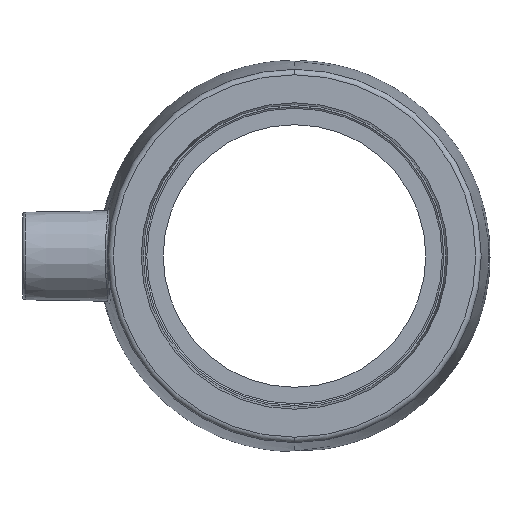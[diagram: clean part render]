
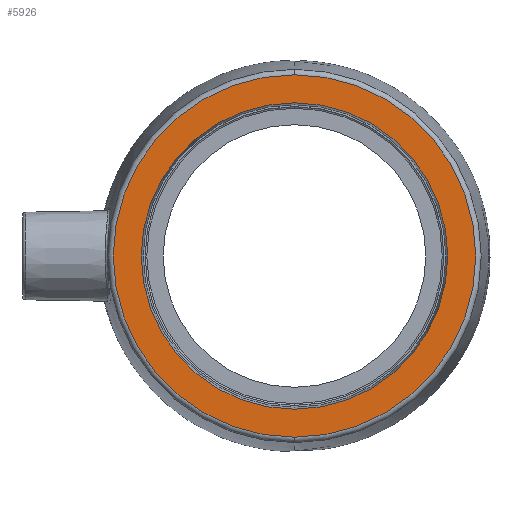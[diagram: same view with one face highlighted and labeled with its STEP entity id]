
A CAD part, left-side view. The second image highlights one B-rep face of the part: STEP entity #5926.
In plain terms, the highlighted planar face has unit normal (-1, 0, 0).
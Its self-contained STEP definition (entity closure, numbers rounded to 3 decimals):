
#1281 = EDGE_CURVE ( 'NONE', #10110, #10109, #2811, .T. ) ;
#1283 = EDGE_CURVE ( 'NONE', #10107, #10106, #2806, .T. ) ;
#2806 = CIRCLE ( 'NONE', #2818, 33.119 ) ;
#2811 = CIRCLE ( 'NONE', #2821, 28.003 ) ;
#2818 = AXIS2_PLACEMENT_3D ( 'NONE', #4012, #4013, #4014 ) ;
#2821 = AXIS2_PLACEMENT_3D ( 'NONE', #4006, #4007, #4008 ) ;
#2983 = CARTESIAN_POINT ( 'NONE',  ( -34.7, 0., 0. ) ) ;
#2984 = DIRECTION ( 'NONE',  ( -1., 0., 0. ) ) ;
#2985 = DIRECTION ( 'NONE',  ( 0., 0., 1. ) ) ;
#2986 = CARTESIAN_POINT ( 'NONE',  ( -34.7, 0., 0. ) ) ;
#2987 = DIRECTION ( 'NONE',  ( -1., 0., 0. ) ) ;
#2988 = DIRECTION ( 'NONE',  ( 0., 0., 1. ) ) ;
#4006 = CARTESIAN_POINT ( 'NONE',  ( -34.7, 0., 0. ) ) ;
#4007 = DIRECTION ( 'NONE',  ( -1., 0., 0. ) ) ;
#4008 = DIRECTION ( 'NONE',  ( 0., 0., 1. ) ) ;
#4012 = CARTESIAN_POINT ( 'NONE',  ( -34.7, 0., 0. ) ) ;
#4013 = DIRECTION ( 'NONE',  ( -1., 0., 0. ) ) ;
#4014 = DIRECTION ( 'NONE',  ( 0., 0., 1. ) ) ;
#5926 = ADVANCED_FACE ( 'NONE', ( #24601, #24602 ), #24603, .F. ) ;
#10106 = VERTEX_POINT ( 'NONE', #20091 ) ;
#10107 = VERTEX_POINT ( 'NONE', #20084 ) ;
#10109 = VERTEX_POINT ( 'NONE', #20093 ) ;
#10110 = VERTEX_POINT ( 'NONE', #20094 ) ;
#10721 = AXIS2_PLACEMENT_3D ( 'NONE', #24598, #24605, #24606 ) ;
#14824 = CIRCLE ( 'NONE', #14827, 33.119 ) ;
#14826 = CIRCLE ( 'NONE', #14829, 28.003 ) ;
#14827 = AXIS2_PLACEMENT_3D ( 'NONE', #2983, #2984, #2985 ) ;
#14829 = AXIS2_PLACEMENT_3D ( 'NONE', #2986, #2987, #2988 ) ;
#20084 = CARTESIAN_POINT ( 'NONE',  ( -34.7, 0., 33.119 ) ) ;
#20091 = CARTESIAN_POINT ( 'NONE',  ( -34.7, 0., -33.119 ) ) ;
#20093 = CARTESIAN_POINT ( 'NONE',  ( -34.7, 0., 28.003 ) ) ;
#20094 = CARTESIAN_POINT ( 'NONE',  ( -34.7, 0., -28.003 ) ) ;
#21360 = EDGE_CURVE ( 'NONE', #10106, #10107, #14824, .T. ) ;
#21361 = EDGE_CURVE ( 'NONE', #10109, #10110, #14826, .T. ) ;
#22794 = ORIENTED_EDGE ( 'NONE', *, *, #21361, .F. ) ;
#22795 = ORIENTED_EDGE ( 'NONE', *, *, #1281, .F. ) ;
#22796 = ORIENTED_EDGE ( 'NONE', *, *, #1283, .T. ) ;
#22797 = ORIENTED_EDGE ( 'NONE', *, *, #21360, .T. ) ;
#22813 = EDGE_LOOP ( 'NONE', ( #22796, #22797 ) ) ;
#22814 = EDGE_LOOP ( 'NONE', ( #22794, #22795 ) ) ;
#24598 = CARTESIAN_POINT ( 'NONE',  ( -34.7, 28.003, 0. ) ) ;
#24601 = FACE_BOUND ( 'NONE', #22814, .T. ) ;
#24602 = FACE_OUTER_BOUND ( 'NONE', #22813, .T. ) ;
#24603 = PLANE ( 'NONE',  #10721 ) ;
#24605 = DIRECTION ( 'NONE',  ( 1., 0., 0. ) ) ;
#24606 = DIRECTION ( 'NONE',  ( 0., 0., -1. ) ) ;
